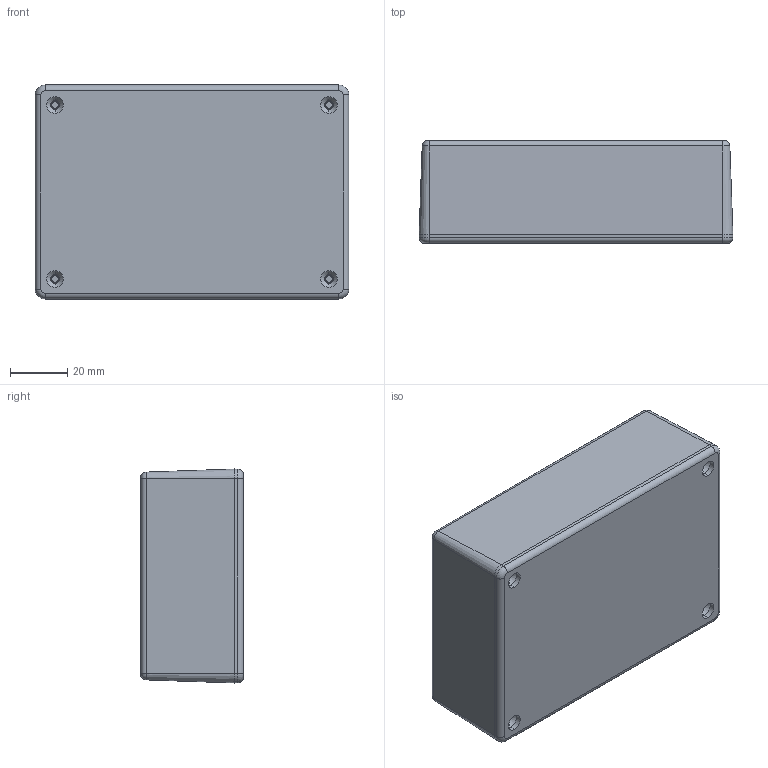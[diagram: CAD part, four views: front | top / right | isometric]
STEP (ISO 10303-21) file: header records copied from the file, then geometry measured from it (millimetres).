
FILE_DESCRIPTION (( 'STEP AP203' ), '1' );
FILE_NAME ('HH-062.STEP', '2015-03-27T08:59:27', ( 'admin' ), ( 'Hewlett-Packard Company' ), 'SwSTEP 2.0', 'SolidWorks 2014', '' );
FILE_SCHEMA (( 'CONFIG_CONTROL_DESIGN' ));
Length unit declared in the file: millimetre
Products named in the file (3): HH-062-P-2-11148_kulpsuz; HH-062-P-1-11146; HH-062
Assembly tree (2 placements, depth 2):
  HH-062
    HH-062-P-2-11148_kulpsuz
    HH-062-P-1-11146
Bounding box: 110 x 36 x 75 mm (x, y, z)
Volume: 73461 mm3; surface area: 61832.1 mm2
Topology: 2 solids, 2 shells, 180 faces, 404 edges, 256 vertices
Faces by surface type: cylinder 76, plane 60, cone 36, torus 8
Entity records: 5361 total; most frequent: DIRECTION 982, CARTESIAN_POINT 841, ORIENTED_EDGE 800, EDGE_CURVE 400, AXIS2_PLACEMENT_3D 397, VERTEX_POINT 256, EDGE_LOOP 220, CIRCLE 212
